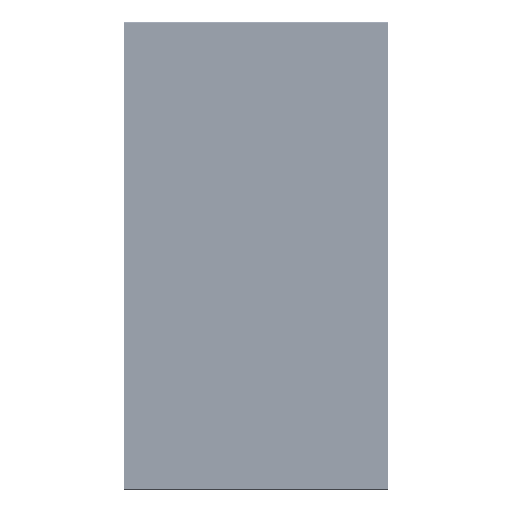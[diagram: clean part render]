
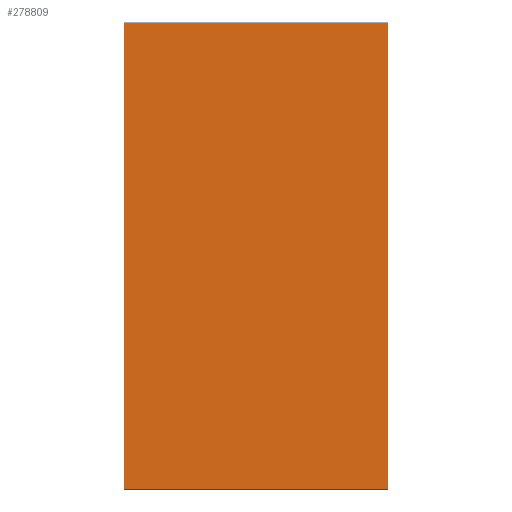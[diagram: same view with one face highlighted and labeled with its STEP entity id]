
A CAD part, front view. The second image highlights one B-rep face of the part: STEP entity #278809.
In plain terms, the highlighted planar face has unit normal (0, -1, 0).
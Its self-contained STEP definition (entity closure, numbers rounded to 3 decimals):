
#31071=FACE_OUTER_BOUND('',#48884,.T.);
#48884=EDGE_LOOP('',(#253016,#253017,#253018,#253019));
#80443=LINE('',#466962,#112257);
#80444=LINE('',#466979,#112258);
#80446=LINE('',#467022,#112260);
#80449=LINE('',#467065,#112263);
#112257=VECTOR('',#365129,1000.);
#112258=VECTOR('',#365132,1000.);
#112260=VECTOR('',#365136,1000.);
#112263=VECTOR('',#365141,1000.);
#141776=VERTEX_POINT('',#466950);
#141777=VERTEX_POINT('',#466961);
#141778=VERTEX_POINT('',#466978);
#141780=VERTEX_POINT('',#467021);
#178960=EDGE_CURVE('',#141776,#141777,#80443,.T.);
#178962=EDGE_CURVE('',#141778,#141776,#80444,.T.);
#178967=EDGE_CURVE('',#141777,#141780,#80446,.T.);
#178973=EDGE_CURVE('',#141780,#141778,#80449,.T.);
#253016=ORIENTED_EDGE('',*,*,#178967,.F.);
#253017=ORIENTED_EDGE('',*,*,#178960,.F.);
#253018=ORIENTED_EDGE('',*,*,#178962,.F.);
#253019=ORIENTED_EDGE('',*,*,#178973,.F.);
#265499=PLANE('',#297504);
#278809=ADVANCED_FACE('',(#31071),#265499,.T.);
#297504=AXIS2_PLACEMENT_3D('',#467066,#365142,#365143);
#365129=DIRECTION('',(0.,0.,1.));
#365132=DIRECTION('',(-1.,0.,0.));
#365136=DIRECTION('',(1.,0.,0.));
#365141=DIRECTION('',(0.,0.,-1.));
#365142=DIRECTION('center_axis',(0.,-1.,0.));
#365143=DIRECTION('ref_axis',(1.,0.,0.));
#466950=CARTESIAN_POINT('',(-606.505,-1.6,-341.91));
#466961=CARTESIAN_POINT('',(-606.505,-1.6,341.91));
#466962=CARTESIAN_POINT('',(-606.505,-1.6,-343.037));
#466978=CARTESIAN_POINT('',(606.505,-1.6,-341.91));
#466979=CARTESIAN_POINT('',(607.632,-1.6,-341.91));
#467021=CARTESIAN_POINT('',(606.505,-1.6,341.91));
#467022=CARTESIAN_POINT('',(-607.632,-1.6,341.91));
#467065=CARTESIAN_POINT('',(606.505,-1.6,343.037));
#467066=CARTESIAN_POINT('Origin',(564.595,-1.6,343.037));
